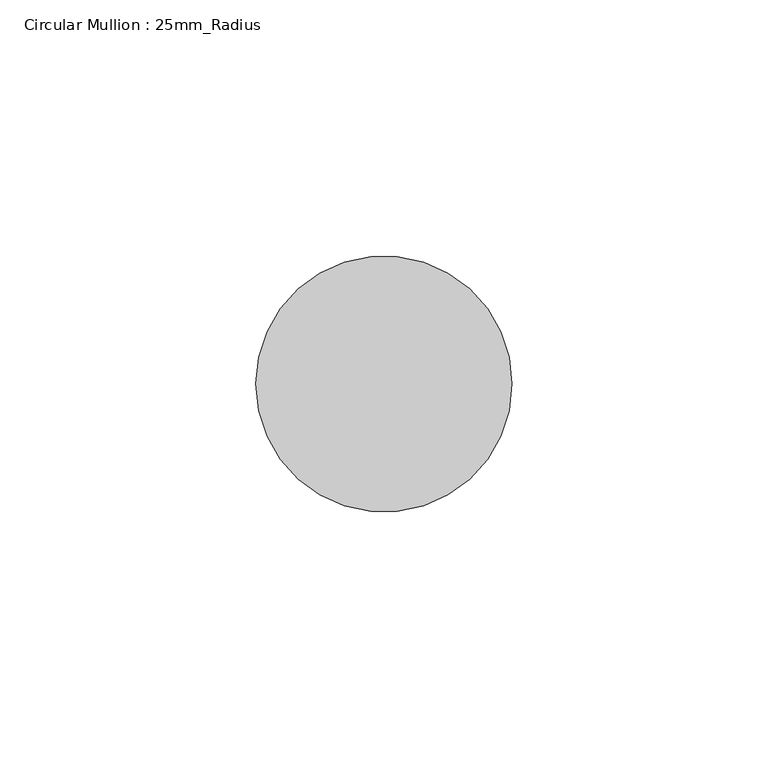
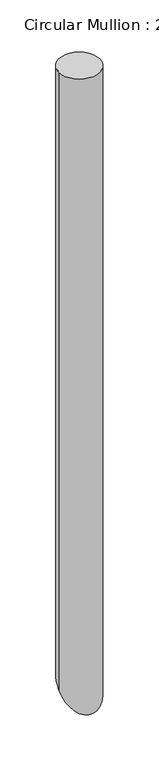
"""IFC4 building model written with IfcOpenShell, lengths in millimetres: member geometry, Circular Mullion : 25mm_Radius."""

import ifcopenshell
import ifcopenshell.guid

model = None  # the IFC model being written
_history = None  # IfcOwnerHistory: only IFC2X3 demands one
_inside = {}  # id of a spatial element -> (the spatial element, [elements in it])
_under = {}  # id of a project, library or spatial element -> (it, [spatial elements below it])
_declared = {}  # id of a project -> (the project, [libraries it declares])
_typed = {}  # id of a type object -> (the type object, [elements of that type])
_made_of = {}  # id of a material, layer set ... -> (it, [elements and type objects made of it])


def new_model(schema):
    """Start an empty IFC model of exactly this schema.

    Asked for "IFC4X3", IfcOpenShell would pick the latest addendum, in which some entities
    have other attributes; the version numbers below select the first issue.
    IFC2X3 requires an IfcOwnerHistory on every rooted entity: one is made here for all.
    """
    global model, _history
    if schema == "IFC4X3":
        model = ifcopenshell.file(schema_version=(4, 3, 0, 0))
    else:
        model = ifcopenshell.file(schema=schema)
    _inside.clear()
    _under.clear()
    _declared.clear()
    _typed.clear()
    _made_of.clear()
    _history = None
    if model.schema == "IFC2X3":
        org = make("IfcOrganization", Name="unknown")
        user = make(
            "IfcPersonAndOrganization",
            ThePerson=make("IfcPerson", FamilyName="unknown"),
            TheOrganization=org,
        )
        app = make(
            "IfcApplication",
            ApplicationDeveloper=org,
            Version="unknown",
            ApplicationFullName="unknown",
            ApplicationIdentifier="unknown",
        )
        _history = make(
            "IfcOwnerHistory",
            OwningUser=user,
            OwningApplication=app,
            ChangeAction="ADDED",
            CreationDate=0,
        )
    return model


def make(cls, **values):
    """One entity of the class cls with the attributes given. An attribute that is None is left unset."""
    return model.create_entity(
        cls, **{name: value for name, value in values.items() if value is not None}
    )


def rooted(cls, **values):
    """An entity with a GlobalId (a new one), such as an element, a storey or a relation."""
    return make(cls, GlobalId=ifcopenshell.guid.new(), OwnerHistory=_history, **values)


def si_unit(unit_type, name, prefix=None):
    """IfcSIUnit, for example si_unit("LENGTHUNIT", "METRE", prefix="MILLI")."""
    return make("IfcSIUnit", UnitType=unit_type, Prefix=prefix, Name=name)


def assignment(units):
    """IfcUnitAssignment: the units of a project."""
    return None if units is None else make("IfcUnitAssignment", Units=units)


def point(xyz):
    """IfcCartesianPoint."""
    return None if xyz is None else make("IfcCartesianPoint", Coordinates=xyz)


def direction(xyz):
    """IfcDirection."""
    return None if xyz is None else make("IfcDirection", DirectionRatios=xyz)


def frame(location, z_axis=None, x_axis=None):
    """IfcAxis2Placement3D, a coordinate frame: its origin and axes. An axis left out is left unset."""
    return make(
        "IfcAxis2Placement3D",
        Location=point(location),
        Axis=direction(z_axis),
        RefDirection=direction(x_axis),
    )


def origin():
    """The frame at (0, 0, 0) with its axes left unset."""
    return frame((0.0, 0.0, 0.0))


def place(relative_to, where):
    """IfcLocalPlacement: puts the frame where relative to a parent placement (None: the world)."""
    return make(
        "IfcLocalPlacement", PlacementRelTo=relative_to, RelativePlacement=where
    )


def context(
    kind, dimensions, precision=None, world=None, true_north=None, identifier=None
):
    """IfcGeometricRepresentationContext, for example the 3D "Model" context."""
    return make(
        "IfcGeometricRepresentationContext",
        ContextIdentifier=identifier,
        ContextType=kind,
        CoordinateSpaceDimension=dimensions,
        Precision=precision,
        WorldCoordinateSystem=world,
        TrueNorth=true_north,
    )


def project(units=None, contexts=None):
    """IfcProject with its units and contexts."""
    return rooted(
        "IfcProject",
        Name="project",
        RepresentationContexts=contexts,
        UnitsInContext=assignment(units),
    )


def spatial(cls, under=None, at=None, **own):
    """A site, building, storey or space (cls), placed at a placement, below another one or the project."""
    s = rooted(cls, ObjectPlacement=at, **own)
    if under is not None:
        _under.setdefault(under.id(), (under, []))[1].append(s)
    return s


def circle_curve(where, radius):
    """IfcCircle in the frame where."""
    return make("IfcCircle", Position=where, Radius=radius)


def ellipse_curve(where, semi_axis1, semi_axis2):
    """IfcEllipse in the frame where."""
    return make(
        "IfcEllipse", Position=where, SemiAxis1=semi_axis1, SemiAxis2=semi_axis2
    )


def shape(context_of_items, identifier, shape_type, items):
    """IfcShapeRepresentation: the items that make up one representation, for example the "Body"."""
    return make(
        "IfcShapeRepresentation",
        ContextOfItems=context_of_items,
        RepresentationIdentifier=identifier,
        RepresentationType=shape_type,
        Items=items,
    )


def source(mapping_origin, context_of_items, identifier, shape_type, items):
    """IfcRepresentationMap: a shape defined once, which mapped items show again and again."""
    return make(
        "IfcRepresentationMap",
        MappingOrigin=mapping_origin,
        MappedRepresentation=shape(context_of_items, identifier, shape_type, items),
    )


def transform(
    local_origin,
    x_axis=None,
    y_axis=None,
    z_axis=None,
    scale=None,
    scale2=None,
    scale3=None,
    uniform=True,
):
    """IfcCartesianTransformationOperator3D, or its non-uniform kind. x_axis, y_axis, z_axis: its Axis1, 2, 3."""
    if uniform:
        return make(
            "IfcCartesianTransformationOperator3D",
            Axis1=direction(x_axis),
            Axis2=direction(y_axis),
            LocalOrigin=point(local_origin),
            Scale=scale,
            Axis3=direction(z_axis),
        )
    return make(
        "IfcCartesianTransformationOperator3DnonUniform",
        Axis1=direction(x_axis),
        Axis2=direction(y_axis),
        LocalOrigin=point(local_origin),
        Scale=scale,
        Axis3=direction(z_axis),
        Scale2=scale2,
        Scale3=scale3,
    )


def mapped(mapping_source, mapping_target):
    """IfcMappedItem: shows the shape of a source again, moved by a transform."""
    return make(
        "IfcMappedItem", MappingSource=mapping_source, MappingTarget=mapping_target
    )


def made_of(thing, what):
    """Note that an element or type object is made of a material, layer set ...; save() writes the relation."""
    if what is not None:
        _made_of.setdefault(what.id(), (what, []))[1].append(thing)
    return thing


def element(
    cls,
    number,
    at=None,
    inside=None,
    cuts=None,
    type_object=None,
    material=None,
    context=None,
    identifier="Body",
    shape_type=None,
    held_by="IfcProductDefinitionShape",
    body=None,
    shapes=None,
    **own,
):
    """One element of the class cls, such as IfcWall. Its Tag is "e" and its number.

    at: its placement. inside: the storey or other place that contains it. cuts: it is an
    opening in that element (IfcRelVoidsElement). A single representation is given by context,
    identifier, shape_type and body (its items); several are given by shapes. held_by: the class
    of the entity that holds the representations. save() writes the other relations.
    """
    e = rooted(cls, Tag="e%d" % number, ObjectPlacement=at, **own)
    if body is not None:
        shapes = [shape(context, identifier, shape_type, body)]
    if shapes is not None:
        e.Representation = make(held_by, Representations=shapes)
    if inside is not None:
        _inside.setdefault(inside.id(), (inside, []))[1].append(e)
    if cuts is not None:
        rooted(
            "IfcRelVoidsElement", RelatingBuildingElement=cuts, RelatedOpeningElement=e
        )
    if type_object is not None:
        _typed.setdefault(type_object.id(), (type_object, []))[1].append(e)
    return made_of(e, material)


def aggregate(whole, parts):
    """IfcRelAggregates: a whole, such as a stair, and the parts it consists of."""
    return rooted("IfcRelAggregates", RelatingObject=whole, RelatedObjects=parts)


def save(model, path):
    """Write the relations noted so far, then the file.

    IfcRelAggregates (storeys below a building ...), IfcRelContainedInSpatialStructure (elements
    in a storey), IfcRelDefinesByType, IfcRelAssociatesMaterial and IfcRelDeclares: one each for
    every whole, place, type object, material and project.
    """
    for whole, parts in _under.values():
        aggregate(whole, parts)
    for where, things in _inside.values():
        rooted(
            "IfcRelContainedInSpatialStructure",
            RelatedElements=things,
            RelatingStructure=where,
        )
    for kind, things in _typed.values():
        rooted("IfcRelDefinesByType", RelatedObjects=things, RelatingType=kind)
    for what, things in _made_of.values():
        rooted("IfcRelAssociatesMaterial", RelatedObjects=things, RelatingMaterial=what)
    for by, libraries in _declared.values():
        rooted("IfcRelDeclares", RelatingContext=by, RelatedDefinitions=libraries)
    model.write(path)


def plane_surface(at):
    """IfcPlane: the flat surface through the origin of the frame at, square to its z axis."""
    return make("IfcPlane", Position=at)


def cylinder_surface(at, radius):
    """IfcCylindricalSurface: all points at the distance radius from the z axis of the frame at."""
    return make("IfcCylindricalSurface", Position=at, Radius=radius)


def advanced_brep(points, edges, surfaces, faces):
    """IfcAdvancedBrep: a solid bounded by faces that lie on surfaces and meet in shared edges.

    An edge is (start, end): straight between two places in points (the first is 0);
    or (start, end, curve); or (start, end, curve, False) where it runs against its curve.
    A face is (place in surfaces, loops), or (place, loops, False) where it looks against
    its surface's normal. A loop lists edges by number (the first is 1), with a minus sign
    where the edge is run from its end to its start. The first loop is the outer one.
    """
    corners = [point(p) for p in points]
    vertices = [make("IfcVertexPoint", VertexGeometry=c) for c in corners]
    made = []
    for start, end, *more in edges:
        made.append(
            make(
                "IfcEdgeCurve",
                EdgeStart=vertices[start],
                EdgeEnd=vertices[end],
                EdgeGeometry=more[0] if more else make("IfcPolyline", Points=[corners[start], corners[end]]),
                SameSense=more[1] if len(more) > 1 else True,
            )
        )
    hull = []
    for where, loops, *sense in faces:
        bounds = []
        for j, loop in enumerate(loops):
            ring = [make("IfcOrientedEdge", EdgeElement=made[abs(k) - 1], Orientation=k > 0) for k in loop]
            bounds.append(
                make(
                    "IfcFaceOuterBound" if j == 0 else "IfcFaceBound",
                    Bound=make("IfcEdgeLoop", EdgeList=ring),
                    Orientation=True,
                )
            )
        hull.append(make("IfcAdvancedFace", Bounds=bounds, FaceSurface=surfaces[where], SameSense=sense[0] if sense else True))
    return make("IfcAdvancedBrep", Outer=make("IfcClosedShell", CfsFaces=hull))


def circular_mullion_25mm_radius_9acfa2ed(model_context):
    return source(origin(), model_context, "Body", "AdvancedBrep", [
        advanced_brep(
        [(0.0, 0.0, 0.0), (-50.0, 0.0, 0.0), (0.0, 0.0, -799.9965329), (-50.0, 0.0, -799.9965329)],
        [
            (0, 1, circle_curve(frame((-25.0, 0.0, 0.0), z_axis=(0.0, 0.0, 1.0), x_axis=(1.0, 0.0, 0.0)), 25.0)),
            (1, 0, circle_curve(frame((-25.0, 0.0, 0.0), z_axis=(0.0, 0.0, 1.0), x_axis=(1.0, 0.0, 0.0)), 25.0)),
            (0, 2),
            (2, 3, ellipse_curve(frame((-25.0, 0.0, -799.9965329), z_axis=(0.0, -0.7071067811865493, 0.7071067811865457), x_axis=(0.0, 0.7071067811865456, 0.7071067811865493)), 35.3553391, 25.0)),
            (3, 1),
            (3, 2, ellipse_curve(frame((-25.0, 0.0, -799.9965329), z_axis=(0.0, -0.7071067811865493, 0.7071067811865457), x_axis=(0.0, 0.7071067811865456, 0.7071067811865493)), 35.3553391, 25.0)),
        ],
        [
            plane_surface(frame((0.0, -50.0, 0.0), z_axis=(0.0, 0.0, 1.0), x_axis=(-1.0, 0.0, 0.0))),
            cylinder_surface(frame((-25.0, 0.0, 0.0), z_axis=(0.0, 0.0, 1.0), x_axis=(1.0, 0.0, 0.0)), 25.0),
            plane_surface(frame((-304.8, 0.0, -799.9965329), z_axis=(0.0, 0.7071067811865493, -0.7071067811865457), x_axis=(0.0, 0.7071067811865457, 0.7071067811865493))),
        ],
        [
            (0, [[1, 2]]),
            (1, [[-1, 3, 4, 5]]),
            (1, [[-2, -5, 6, -3]]),
            (2, [[-6, -4]]),
        ],
    ),
    ])


if __name__ == "__main__":
    model = new_model("IFC4")
    model_context = context("Model", 3, world=origin())
    ifc_project = project(units=[si_unit("LENGTHUNIT", "METRE", prefix="MILLI")], contexts=[model_context])
    site = spatial("IfcSite", under=ifc_project)
    building = spatial("IfcBuilding", under=site)
    placement = place(None, origin())
    circular_mullion_25mm_radius_shape = circular_mullion_25mm_radius_9acfa2ed(model_context)
    element("IfcMember", 1, ObjectType="Circular Mullion : 25mm_Radius", at=placement, inside=building, context=model_context, shape_type="MappedRepresentation", body=[
        mapped(circular_mullion_25mm_radius_shape, transform((0.0, 0.0, 0.0), x_axis=(1.0, 0.0, 0.0), y_axis=(0.0, 1.0, 0.0), z_axis=(0.0, 0.0, 1.0))),
    ])
    save(model, "model.ifc")
